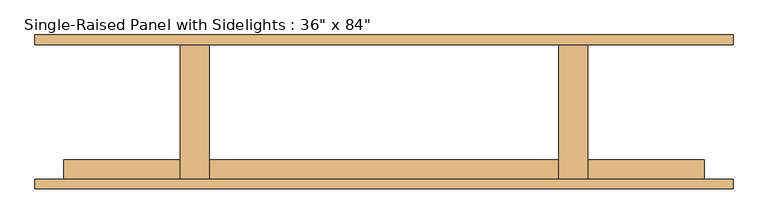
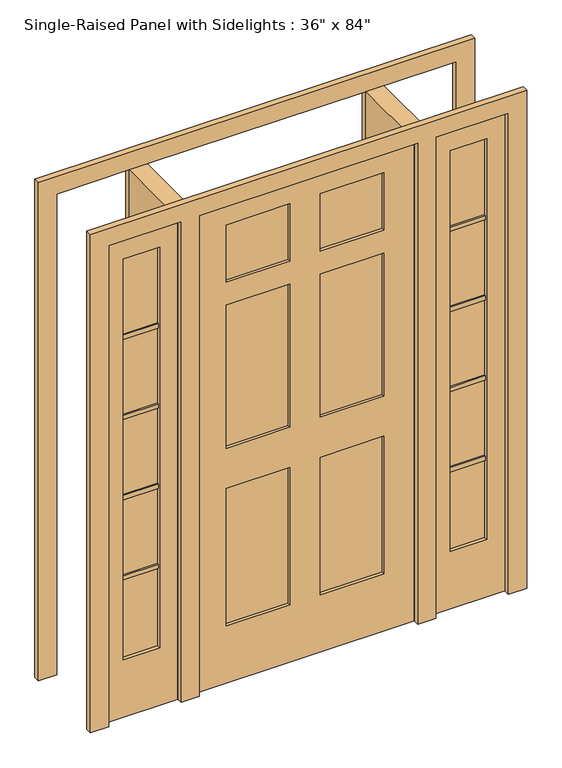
"""IFC4 building model written with IfcOpenShell, lengths in millimetres: door geometry."""

import ifcopenshell
import ifcopenshell.guid

model = None  # the IFC model being written
_history = None  # IfcOwnerHistory: only IFC2X3 demands one
_inside = {}  # id of a spatial element -> (the spatial element, [elements in it])
_under = {}  # id of a project, library or spatial element -> (it, [spatial elements below it])
_declared = {}  # id of a project -> (the project, [libraries it declares])
_typed = {}  # id of a type object -> (the type object, [elements of that type])
_made_of = {}  # id of a material, layer set ... -> (it, [elements and type objects made of it])


def new_model(schema):
    """Start an empty IFC model of exactly this schema.

    Asked for "IFC4X3", IfcOpenShell would pick the latest addendum, in which some entities
    have other attributes; the version numbers below select the first issue.
    IFC2X3 requires an IfcOwnerHistory on every rooted entity: one is made here for all.
    """
    global model, _history
    if schema == "IFC4X3":
        model = ifcopenshell.file(schema_version=(4, 3, 0, 0))
    else:
        model = ifcopenshell.file(schema=schema)
    _inside.clear()
    _under.clear()
    _declared.clear()
    _typed.clear()
    _made_of.clear()
    _history = None
    if model.schema == "IFC2X3":
        org = make("IfcOrganization", Name="unknown")
        user = make(
            "IfcPersonAndOrganization",
            ThePerson=make("IfcPerson", FamilyName="unknown"),
            TheOrganization=org,
        )
        app = make(
            "IfcApplication",
            ApplicationDeveloper=org,
            Version="unknown",
            ApplicationFullName="unknown",
            ApplicationIdentifier="unknown",
        )
        _history = make(
            "IfcOwnerHistory",
            OwningUser=user,
            OwningApplication=app,
            ChangeAction="ADDED",
            CreationDate=0,
        )
    return model


def make(cls, **values):
    """One entity of the class cls with the attributes given. An attribute that is None is left unset."""
    return model.create_entity(
        cls, **{name: value for name, value in values.items() if value is not None}
    )


def rooted(cls, **values):
    """An entity with a GlobalId (a new one), such as an element, a storey or a relation."""
    return make(cls, GlobalId=ifcopenshell.guid.new(), OwnerHistory=_history, **values)


def si_unit(unit_type, name, prefix=None):
    """IfcSIUnit, for example si_unit("LENGTHUNIT", "METRE", prefix="MILLI")."""
    return make("IfcSIUnit", UnitType=unit_type, Prefix=prefix, Name=name)


def assignment(units):
    """IfcUnitAssignment: the units of a project."""
    return None if units is None else make("IfcUnitAssignment", Units=units)


def point(xyz):
    """IfcCartesianPoint."""
    return None if xyz is None else make("IfcCartesianPoint", Coordinates=xyz)


def direction(xyz):
    """IfcDirection."""
    return None if xyz is None else make("IfcDirection", DirectionRatios=xyz)


def frame(location, z_axis=None, x_axis=None):
    """IfcAxis2Placement3D, a coordinate frame: its origin and axes. An axis left out is left unset."""
    return make(
        "IfcAxis2Placement3D",
        Location=point(location),
        Axis=direction(z_axis),
        RefDirection=direction(x_axis),
    )


def origin():
    """The frame at (0, 0, 0) with its axes left unset."""
    return frame((0.0, 0.0, 0.0))


def origin_with_axes():
    """The frame at (0, 0, 0) with the z axis (0, 0, 1) and the x axis (1, 0, 0) written out."""
    return frame((0.0, 0.0, 0.0), z_axis=(0.0, 0.0, 1.0), x_axis=(1.0, 0.0, 0.0))


def place(relative_to, where):
    """IfcLocalPlacement: puts the frame where relative to a parent placement (None: the world)."""
    return make(
        "IfcLocalPlacement", PlacementRelTo=relative_to, RelativePlacement=where
    )


def context(
    kind, dimensions, precision=None, world=None, true_north=None, identifier=None
):
    """IfcGeometricRepresentationContext, for example the 3D "Model" context."""
    return make(
        "IfcGeometricRepresentationContext",
        ContextIdentifier=identifier,
        ContextType=kind,
        CoordinateSpaceDimension=dimensions,
        Precision=precision,
        WorldCoordinateSystem=world,
        TrueNorth=true_north,
    )


def project(units=None, contexts=None):
    """IfcProject with its units and contexts."""
    return rooted(
        "IfcProject",
        Name="project",
        RepresentationContexts=contexts,
        UnitsInContext=assignment(units),
    )


def spatial(cls, under=None, at=None, **own):
    """A site, building, storey or space (cls), placed at a placement, below another one or the project."""
    s = rooted(cls, ObjectPlacement=at, **own)
    if under is not None:
        _under.setdefault(under.id(), (under, []))[1].append(s)
    return s


def polyline(points):
    """IfcPolyline through the points."""
    return make("IfcPolyline", Points=[point(p) for p in points])


def outline(outer, holes=None, kind="AREA"):
    """IfcArbitraryClosedProfileDef: a profile drawn as a closed curve; with holes, ...WithVoids."""
    if holes is None:
        return make("IfcArbitraryClosedProfileDef", ProfileType=kind, OuterCurve=outer)
    return make(
        "IfcArbitraryProfileDefWithVoids",
        ProfileType=kind,
        OuterCurve=outer,
        InnerCurves=holes,
    )


def extrude(swept, where, along, depth):
    """IfcExtrudedAreaSolid: the profile swept, set in the frame where, extruded along a direction by depth."""
    return make(
        "IfcExtrudedAreaSolid",
        SweptArea=swept,
        Position=where,
        ExtrudedDirection=direction(along),
        Depth=depth,
    )


def shape(context_of_items, identifier, shape_type, items):
    """IfcShapeRepresentation: the items that make up one representation, for example the "Body"."""
    return make(
        "IfcShapeRepresentation",
        ContextOfItems=context_of_items,
        RepresentationIdentifier=identifier,
        RepresentationType=shape_type,
        Items=items,
    )


def source(mapping_origin, context_of_items, identifier, shape_type, items):
    """IfcRepresentationMap: a shape defined once, which mapped items show again and again."""
    return make(
        "IfcRepresentationMap",
        MappingOrigin=mapping_origin,
        MappedRepresentation=shape(context_of_items, identifier, shape_type, items),
    )


def transform(
    local_origin,
    x_axis=None,
    y_axis=None,
    z_axis=None,
    scale=None,
    scale2=None,
    scale3=None,
    uniform=True,
):
    """IfcCartesianTransformationOperator3D, or its non-uniform kind. x_axis, y_axis, z_axis: its Axis1, 2, 3."""
    if uniform:
        return make(
            "IfcCartesianTransformationOperator3D",
            Axis1=direction(x_axis),
            Axis2=direction(y_axis),
            LocalOrigin=point(local_origin),
            Scale=scale,
            Axis3=direction(z_axis),
        )
    return make(
        "IfcCartesianTransformationOperator3DnonUniform",
        Axis1=direction(x_axis),
        Axis2=direction(y_axis),
        LocalOrigin=point(local_origin),
        Scale=scale,
        Axis3=direction(z_axis),
        Scale2=scale2,
        Scale3=scale3,
    )


def mapped(mapping_source, mapping_target):
    """IfcMappedItem: shows the shape of a source again, moved by a transform."""
    return make(
        "IfcMappedItem", MappingSource=mapping_source, MappingTarget=mapping_target
    )


def made_of(thing, what):
    """Note that an element or type object is made of a material, layer set ...; save() writes the relation."""
    if what is not None:
        _made_of.setdefault(what.id(), (what, []))[1].append(thing)
    return thing


def element(
    cls,
    number,
    at=None,
    inside=None,
    cuts=None,
    type_object=None,
    material=None,
    context=None,
    identifier="Body",
    shape_type=None,
    held_by="IfcProductDefinitionShape",
    body=None,
    shapes=None,
    **own,
):
    """One element of the class cls, such as IfcWall. Its Tag is "e" and its number.

    at: its placement. inside: the storey or other place that contains it. cuts: it is an
    opening in that element (IfcRelVoidsElement). A single representation is given by context,
    identifier, shape_type and body (its items); several are given by shapes. held_by: the class
    of the entity that holds the representations. save() writes the other relations.
    """
    e = rooted(cls, Tag="e%d" % number, ObjectPlacement=at, **own)
    if body is not None:
        shapes = [shape(context, identifier, shape_type, body)]
    if shapes is not None:
        e.Representation = make(held_by, Representations=shapes)
    if inside is not None:
        _inside.setdefault(inside.id(), (inside, []))[1].append(e)
    if cuts is not None:
        rooted(
            "IfcRelVoidsElement", RelatingBuildingElement=cuts, RelatedOpeningElement=e
        )
    if type_object is not None:
        _typed.setdefault(type_object.id(), (type_object, []))[1].append(e)
    return made_of(e, material)


def aggregate(whole, parts):
    """IfcRelAggregates: a whole, such as a stair, and the parts it consists of."""
    return rooted("IfcRelAggregates", RelatingObject=whole, RelatedObjects=parts)


def save(model, path):
    """Write the relations noted so far, then the file.

    IfcRelAggregates (storeys below a building ...), IfcRelContainedInSpatialStructure (elements
    in a storey), IfcRelDefinesByType, IfcRelAssociatesMaterial and IfcRelDeclares: one each for
    every whole, place, type object, material and project.
    """
    for whole, parts in _under.values():
        aggregate(whole, parts)
    for where, things in _inside.values():
        rooted(
            "IfcRelContainedInSpatialStructure",
            RelatedElements=things,
            RelatingStructure=where,
        )
    for kind, things in _typed.values():
        rooted("IfcRelDefinesByType", RelatedObjects=things, RelatingType=kind)
    for what, things in _made_of.values():
        rooted("IfcRelAssociatesMaterial", RelatedObjects=things, RelatingMaterial=what)
    for by, libraries in _declared.values():
        rooted("IfcRelDeclares", RelatingContext=by, RelatedDefinitions=libraries)
    model.write(path)


def door_dba5aa2e(model_context):
    return source(origin(), model_context, "Body", "SweptSolid", [
        extrude(outline(polyline([(762.0, -134.9375), (762.0, -166.6875), (609.6, -166.6875), (609.6, -134.9375), (762.0, -134.9375)])), frame((0.0, 0.0, 600.075), z_axis=(0.0, 0.0, 1.0), x_axis=(1.0, 0.0, 0.0)), (0.0, 0.0, 1.0), 19.05),
        extrude(outline(polyline([(762.0, -134.9375), (762.0, -166.6875), (609.6, -166.6875), (609.6, -134.9375), (762.0, -134.9375)])), frame((0.0, 0.0, 955.675), z_axis=(0.0, 0.0, 1.0), x_axis=(1.0, 0.0, 0.0)), (0.0, 0.0, 1.0), 19.05),
        extrude(outline(polyline([(762.0, -134.9375), (762.0, -166.6875), (609.6, -166.6875), (609.6, -134.9375), (762.0, -134.9375)])), frame((0.0, 0.0, 1311.275), z_axis=(0.0, 0.0, 1.0), x_axis=(1.0, 0.0, 0.0)), (0.0, 0.0, 1.0), 19.05),
        extrude(outline(polyline([(762.0, -134.9375), (762.0, -166.6875), (609.6, -166.6875), (609.6, -134.9375), (762.0, -134.9375)])), frame((0.0, 0.0, 1666.875), z_axis=(0.0, 0.0, 1.0), x_axis=(1.0, 0.0, 0.0)), (0.0, 0.0, 1.0), 19.05),
        extrude(outline(polyline([(-609.6, -134.9375), (-609.6, -166.6875), (-762.0, -166.6875), (-762.0, -134.9375), (-609.6, -134.9375)])), frame((0.0, 0.0, 1666.875), z_axis=(0.0, 0.0, 1.0), x_axis=(1.0, 0.0, 0.0)), (0.0, 0.0, 1.0), 19.05),
        extrude(outline(polyline([(-609.6, -134.9375), (-609.6, -166.6875), (-762.0, -166.6875), (-762.0, -134.9375), (-609.6, -134.9375)])), frame((0.0, 0.0, 1311.275), z_axis=(0.0, 0.0, 1.0), x_axis=(1.0, 0.0, 0.0)), (0.0, 0.0, 1.0), 19.05),
        extrude(outline(polyline([(-609.6, -134.9375), (-609.6, -166.6875), (-762.0, -166.6875), (-762.0, -134.9375), (-609.6, -134.9375)])), frame((0.0, 0.0, 955.675), z_axis=(0.0, 0.0, 1.0), x_axis=(1.0, 0.0, 0.0)), (0.0, 0.0, 1.0), 19.05),
        extrude(outline(polyline([(-609.6, -134.9375), (-609.6, -166.6875), (-762.0, -166.6875), (-762.0, -134.9375), (-609.6, -134.9375)])), frame((0.0, 0.0, 600.075), z_axis=(0.0, 0.0, 1.0), x_axis=(1.0, 0.0, 0.0)), (0.0, 0.0, 1.0), 19.05),
        extrude(outline(polyline([(762.0, -141.2875), (762.0, -160.3375), (609.6, -160.3375), (609.6, -141.2875), (762.0, -141.2875)])), frame((0.0, 0.0, 254.0), z_axis=(0.0, 0.0, 1.0), x_axis=(1.0, 0.0, 0.0)), (0.0, 0.0, 1.0), 1778.0),
        extrude(outline(polyline([(-609.6, -141.2875), (-609.6, -160.3375), (-762.0, -160.3375), (-762.0, -141.2875), (-609.6, -141.2875)])), frame((0.0, 0.0, 254.0), z_axis=(0.0, 0.0, 1.0), x_axis=(1.0, 0.0, 0.0)), (0.0, 0.0, 1.0), 1778.0),
        extrude(outline(polyline([(-457.2, 176.2125), (-457.2, -176.2125), (-533.4, -176.2125), (-533.4, 176.2125), (-457.2, 176.2125)])), origin_with_axes(), (0.0, 0.0, 1.0), 2133.6),
        extrude(outline(polyline([(533.4, 176.2125), (533.4, -176.2125), (457.2, -176.2125), (457.2, 176.2125), (533.4, 176.2125)])), origin_with_axes(), (0.0, 0.0, 1.0), 2133.6),
        extrude(outline(polyline([(2133.6, -533.4), (2133.6, -838.2), (0.0, -838.2), (0.0, -533.4), (2133.6, -533.4)]), holes=[polyline([(2032.0, -609.6), (254.0, -609.6), (254.0, -762.0), (2032.0, -762.0), (2032.0, -609.6)])]), frame((0.0, -176.2125, 0.0), z_axis=(0.0, 1.0, 0.0), x_axis=(0.0, 0.0, 1.0)), (0.0, 0.0, 1.0), 50.8),
        extrude(outline(polyline([(0.0, 533.4), (0.0, 838.2), (2133.6, 838.2), (2133.6, 533.4), (0.0, 533.4)]), holes=[polyline([(2032.0, 762.0), (254.0, 762.0), (254.0, 609.6), (2032.0, 609.6), (2032.0, 762.0)])]), frame((0.0, -176.2125, 0.0), z_axis=(0.0, 1.0, 0.0), x_axis=(0.0, 0.0, 1.0)), (0.0, 0.0, 1.0), 50.8),
        extrude(outline(polyline([(0.0, -914.4), (0.0, -838.2), (2133.6, -838.2), (2133.6, -533.4), (0.0, -533.4), (0.0, -457.2), (2133.6, -457.2), (2133.6, 457.2), (0.0, 457.2), (0.0, 533.4), (2133.6, 533.4), (2133.6, 838.2), (0.0, 838.2), (0.0, 914.4), (2209.8, 914.4), (2209.8, -914.4), (0.0, -914.4)])), frame((0.0, 176.2125, 0.0), z_axis=(0.0, 1.0, 0.0), x_axis=(0.0, 0.0, 1.0)), (0.0, 0.0, 1.0), 25.4),
        extrude(outline(polyline([(0.0, 914.4), (2209.8, 914.4), (2209.8, -914.4), (0.0, -914.4), (0.0, -838.2), (2133.6, -838.2), (2133.6, -533.4), (0.0, -533.4), (0.0, -457.2), (2133.6, -457.2), (2133.6, 457.2), (0.0, 457.2), (0.0, 533.4), (2133.6, 533.4), (2133.6, 838.2), (0.0, 838.2), (0.0, 914.4)])), frame((0.0, -201.6125, 0.0), z_axis=(0.0, 1.0, 0.0), x_axis=(0.0, 0.0, 1.0)), (0.0, 0.0, 1.0), 25.4),
        extrude(outline(polyline([(-63.5, -138.1125), (-63.5, -163.5125), (-330.2, -163.5125), (-330.2, -138.1125), (-63.5, -138.1125)])), frame((0.0, 0.0, 1778.0), z_axis=(0.0, 0.0, 1.0), x_axis=(1.0, 0.0, 0.0)), (0.0, 0.0, 1.0), 254.0),
        extrude(outline(polyline([(330.2, -138.1125), (330.2, -163.5125), (63.5, -163.5125), (63.5, -138.1125), (330.2, -138.1125)])), frame((0.0, 0.0, 1778.0), z_axis=(0.0, 0.0, 1.0), x_axis=(1.0, 0.0, 0.0)), (0.0, 0.0, 1.0), 254.0),
        extrude(outline(polyline([(-63.5, -138.1125), (-63.5, -163.5125), (-330.2, -163.5125), (-330.2, -138.1125), (-63.5, -138.1125)])), frame((0.0, 0.0, 1041.4), z_axis=(0.0, 0.0, 1.0), x_axis=(1.0, 0.0, 0.0)), (0.0, 0.0, 1.0), 635.0),
        extrude(outline(polyline([(330.2, -138.1125), (330.2, -163.5125), (63.5, -163.5125), (63.5, -138.1125), (330.2, -138.1125)])), frame((0.0, 0.0, 1041.4), z_axis=(0.0, 0.0, 1.0), x_axis=(1.0, 0.0, 0.0)), (0.0, 0.0, 1.0), 635.0),
        extrude(outline(polyline([(-63.5, -138.1125), (-63.5, -163.5125), (-330.2, -163.5125), (-330.2, -138.1125), (-63.5, -138.1125)])), frame((0.0, 0.0, 254.0), z_axis=(0.0, 0.0, 1.0), x_axis=(1.0, 0.0, 0.0)), (0.0, 0.0, 1.0), 609.6),
        extrude(outline(polyline([(330.2, -138.1125), (330.2, -163.5125), (63.5, -163.5125), (63.5, -138.1125), (330.2, -138.1125)])), frame((0.0, 0.0, 254.0), z_axis=(0.0, 0.0, 1.0), x_axis=(1.0, 0.0, 0.0)), (0.0, 0.0, 1.0), 609.6),
        extrude(outline(polyline([(2133.6, 457.2), (2133.6, -457.2), (0.0, -457.2), (0.0, 457.2), (2133.6, 457.2)]), holes=[polyline([(2032.0, -63.5), (1778.0, -63.5), (1778.0, -330.2), (2032.0, -330.2), (2032.0, -63.5)]), polyline([(2032.0, 330.2), (1778.0, 330.2), (1778.0, 63.5), (2032.0, 63.5), (2032.0, 330.2)]), polyline([(1676.4, -63.5), (1041.4, -63.5), (1041.4, -330.2), (1676.4, -330.2), (1676.4, -63.5)]), polyline([(1676.4, 330.2), (1041.4, 330.2), (1041.4, 63.5), (1676.4, 63.5), (1676.4, 330.2)]), polyline([(863.6, -63.5), (254.0, -63.5), (254.0, -330.2), (863.6, -330.2), (863.6, -63.5)]), polyline([(863.6, 330.2), (254.0, 330.2), (254.0, 63.5), (863.6, 63.5), (863.6, 330.2)])]), frame((0.0, -176.2125, 0.0), z_axis=(0.0, 1.0, 0.0), x_axis=(0.0, 0.0, 1.0)), (0.0, 0.0, 1.0), 50.8),
    ])


if __name__ == "__main__":
    model = new_model("IFC4")
    model_context = context("Model", 3, world=origin())
    ifc_project = project(units=[si_unit("LENGTHUNIT", "METRE", prefix="MILLI")], contexts=[model_context])
    site = spatial("IfcSite", under=ifc_project)
    building = spatial("IfcBuilding", under=site)
    placement = place(None, origin())
    door_shape = door_dba5aa2e(model_context)
    element("IfcDoor", 1, ObjectType="Single-Raised Panel with Sidelights : 36\" x 84\"", at=placement, inside=building, context=model_context, shape_type="MappedRepresentation", body=[
        mapped(door_shape, transform((0.0, 0.0, 0.0), x_axis=(1.0, 0.0, 0.0), y_axis=(0.0, 1.0, 0.0), z_axis=(0.0, 0.0, 1.0))),
    ])
    save(model, "model.ifc")
